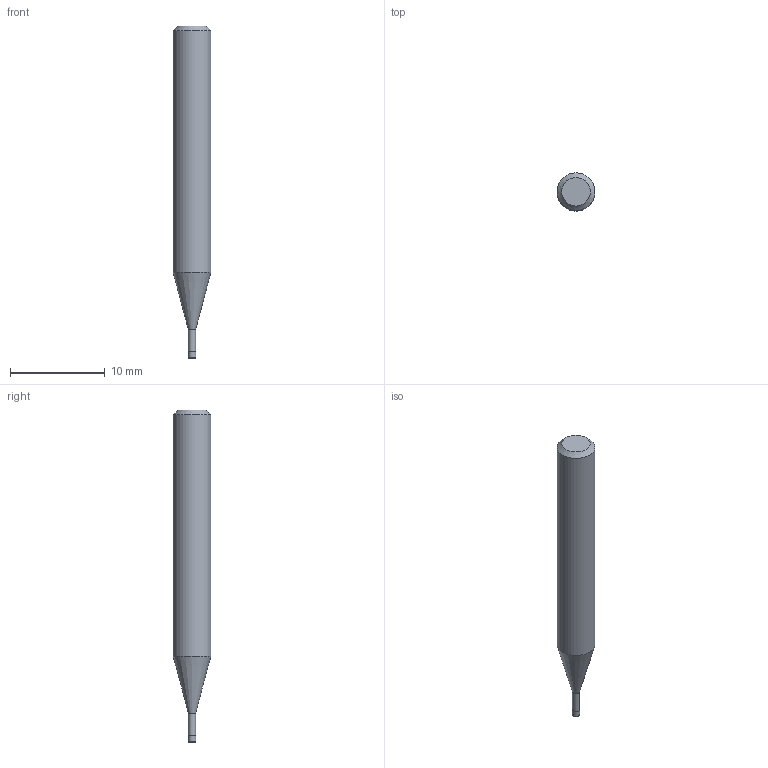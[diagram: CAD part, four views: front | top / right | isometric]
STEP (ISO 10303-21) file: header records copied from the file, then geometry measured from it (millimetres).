
FILE_DESCRIPTION((''),'2;1');
FILE_NAME('C:\Users\nsx150\AppData\Local\Temp\Mastercam 2021\80JYEHYUML\TEMP.step','2022-03-29T14:35:45',(''),(''),'STEP Write','Mastercam 2021 ... CNC Software, Inc.','');
FILE_SCHEMA(('AUTOMOTIVE_DESIGN'));
Length unit declared in the file: millimetre
Products named in the file (1): None
Bounding box: 4 x 4 x 35 mm (x, y, z)
Volume: 357.2 mm3; surface area: 390.2 mm2
Topology: 2 solids, 2 shells, 10 faces, 14 edges, 8 vertices
Faces by surface type: plane 4, cylinder 3, cone 2, torus 1
Full cylindrical faces by diameter (mm): 0.76 x1, 0.8 x1, 4 x1
Entity records: 232 total; most frequent: DIRECTION 40, CARTESIAN_POINT 28, AXIS2_PLACEMENT_3D 20, ORIENTED_EDGE 16, EDGE_LOOP 16, STYLED_ITEM 13, ADVANCED_FACE 10, FACE_BOUND 10
